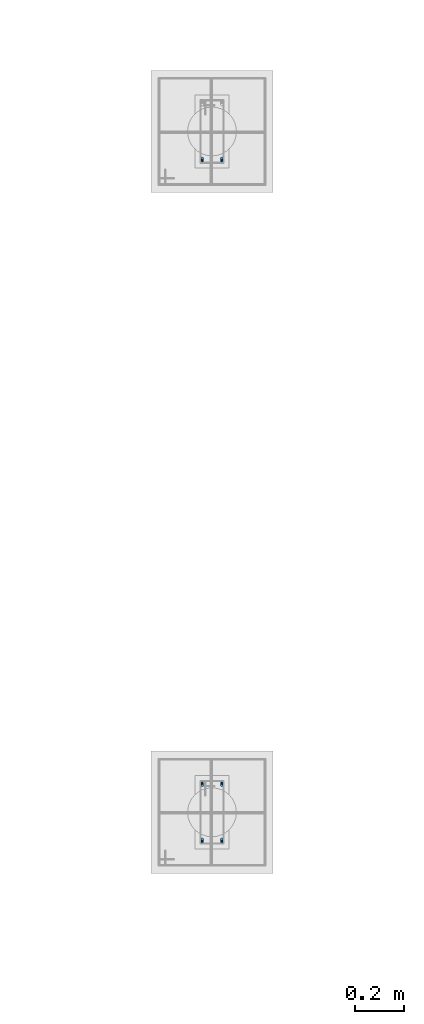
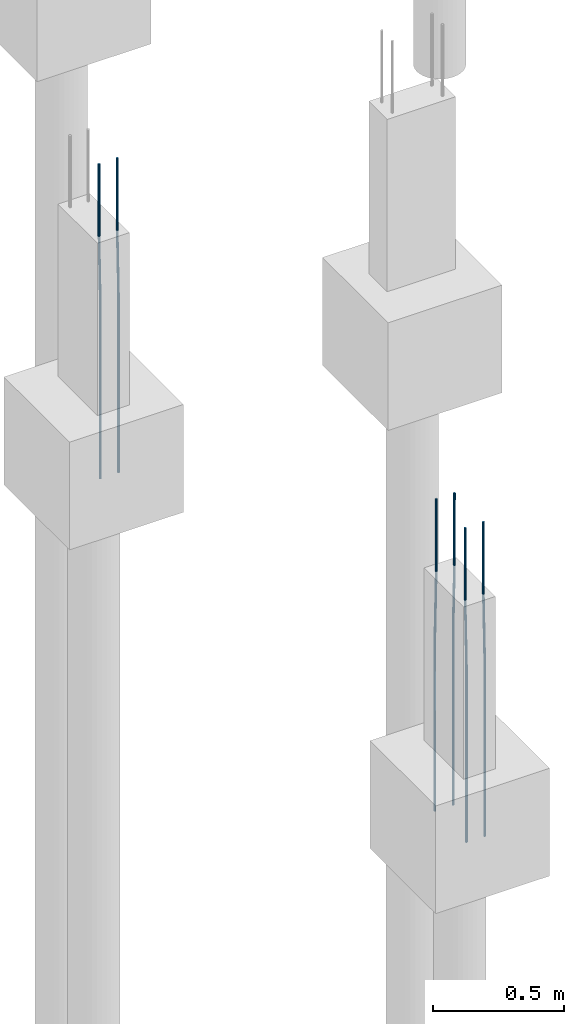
# One storey, part 33 of 119: 6 reinforcing bars.
"""IFC4 building model written with IfcOpenShell, lengths in centimetres."""

from ifc_helpers import new_model, entity, si_unit, derived_unit, frame, origin_with_axes, place, context, project, spatial, element, save


model = new_model("IFC4")

# Units and contexts
model_context = context("Model", 3, precision=1e-05, world=origin_with_axes(), identifier="Body")
ifc_project = project(units=[si_unit("LENGTHUNIT", "METRE", prefix="CENTI"), si_unit("VOLUMEUNIT", "CUBIC_METRE"), si_unit("AREAUNIT", "SQUARE_METRE"), si_unit("POWERUNIT", "WATT"), si_unit("LUMINOUSFLUXUNIT", "LUMEN"), si_unit("ELECTRICCURRENTUNIT", "AMPERE"), si_unit("PRESSUREUNIT", "PASCAL", prefix="KILO"), si_unit("MASSUNIT", "GRAM", prefix="KILO"), si_unit("PLANEANGLEUNIT", "RADIAN"), derived_unit("VOLUMETRICFLOWRATEUNIT", [(si_unit("LENGTHUNIT", "METRE"), 3), (si_unit("TIMEUNIT", "SECOND"), -1)])], contexts=[model_context])

# Site, building, storey
site_placement = place(None, frame((-4000.0, 0.0, 0.0), z_axis=(0.0, 0.0, 1.0), x_axis=(1.0, 0.0, 0.0)))
site = spatial("IfcSite", under=ifc_project, at=site_placement, Name="PADRÃO")
building_placement = place(site_placement, frame((0.0, 0.0, -14.0)))
building = spatial("IfcBuilding", under=site, at=building_placement, Name="CRECHE PRÉ-ESCOLA TIPO 2")
storey_placement = place(building_placement, origin_with_axes())
storey = spatial("IfcBuildingStorey", under=building, at=storey_placement, Name="FUNDAÇÃO", CompositionType="ELEMENT", Elevation=-14.0)

# Reinforcing bars
for number, where, z_axis, x_axis, name in (
    (1, (2519.5, 3178.02, 33.3573001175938), (0.0, 0.0, 1.0), (1.0, 0.0, 0.0), "P53 - Longitudinal"),
    (2, (2527.5, 3178.02, 33.3573001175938), (0.0, 0.0, 1.0), (1.0, 0.0, 0.0), "P53 - Longitudinal"),
    (3, (2527.5, 2899.52, 33.3573001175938), (0.0, 0.0, 1.0), (1.0, 0.0, 0.0), "P60 - Longitudinal"),
):
    element("IfcReinforcingBar", number, at=place(storey_placement, frame(where, z_axis=z_axis, x_axis=x_axis)), inside=storey, Name=name, BarLength=0.0, CrossSectionArea=7.853981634e-05, NominalDiameter=1.0, PredefinedType="MAIN", context=model_context, shape_type="AdvancedSweptSolid", body=[
        entity("IfcSweptDiskSolid", entity("IfcCompositeCurve", [entity("IfcCompositeCurveSegment", "CONTINUOUS", True, entity("IfcPolyline", [entity("IfcCartesianPoint", [0.0, -0.5, -145.357300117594]), entity("IfcCartesianPoint", [0.0, -0.5, -63.3573001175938])])), entity("IfcCompositeCurveSegment", "CONTINUOUS", True, entity("IfcPolyline", [entity("IfcCartesianPoint", [0.0, -0.5, -63.3573001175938]), entity("IfcCartesianPoint", [0.0, 0.5, -33.3573001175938])])), entity("IfcCompositeCurveSegment", "CONTINUOUS", True, entity("IfcPolyline", [entity("IfcCartesianPoint", [0.0, 0.5, -33.3573001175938]), entity("IfcCartesianPoint", [0.0, 0.5, 0.0])]))], False), 0.5),
    ])
reinforcing_bar_1_placement = place(storey_placement, frame((2527.5, 2922.52, 33.3573001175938), z_axis=(0.0, 0.0, 1.0), x_axis=(1.0, 0.0, 0.0)))
element("IfcReinforcingBar", 4, at=reinforcing_bar_1_placement, inside=storey, Name="P60 - Longitudinal", BarLength=0.0, CrossSectionArea=7.853981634e-05, NominalDiameter=1.0, PredefinedType="MAIN", context=model_context, shape_type="AdvancedSweptSolid", body=[
    entity("IfcSweptDiskSolid", entity("IfcCompositeCurve", [entity("IfcCompositeCurveSegment", "CONTINUOUS", True, entity("IfcPolyline", [entity("IfcCartesianPoint", [0.0, 0.5, -145.357300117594]), entity("IfcCartesianPoint", [0.0, 0.5, -63.3573001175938])])), entity("IfcCompositeCurveSegment", "CONTINUOUS", True, entity("IfcPolyline", [entity("IfcCartesianPoint", [0.0, 0.5, -63.3573001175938]), entity("IfcCartesianPoint", [0.0, -0.5, -33.3573001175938])])), entity("IfcCompositeCurveSegment", "CONTINUOUS", True, entity("IfcPolyline", [entity("IfcCartesianPoint", [0.0, -0.5, -33.3573001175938]), entity("IfcCartesianPoint", [0.0, -0.5, 0.0])]))], False), 0.5),
])
reinforcing_bar_2_placement = place(storey_placement, frame((2519.5, 2899.52, 33.3573001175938), z_axis=(0.0, 0.0, 1.0), x_axis=(1.0, 0.0, 0.0)))
element("IfcReinforcingBar", 5, at=reinforcing_bar_2_placement, inside=storey, Name="P60 - Longitudinal", BarLength=0.0, CrossSectionArea=7.853981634e-05, NominalDiameter=1.0, PredefinedType="MAIN", context=model_context, shape_type="AdvancedSweptSolid", body=[
    entity("IfcSweptDiskSolid", entity("IfcCompositeCurve", [entity("IfcCompositeCurveSegment", "CONTINUOUS", True, entity("IfcPolyline", [entity("IfcCartesianPoint", [0.0, -0.5, -145.357300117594]), entity("IfcCartesianPoint", [0.0, -0.5, -63.3573001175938])])), entity("IfcCompositeCurveSegment", "CONTINUOUS", True, entity("IfcPolyline", [entity("IfcCartesianPoint", [0.0, -0.5, -63.3573001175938]), entity("IfcCartesianPoint", [0.0, 0.5, -33.3573001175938])])), entity("IfcCompositeCurveSegment", "CONTINUOUS", True, entity("IfcPolyline", [entity("IfcCartesianPoint", [0.0, 0.5, -33.3573001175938]), entity("IfcCartesianPoint", [0.0, 0.5, 0.0])]))], False), 0.5),
])
reinforcing_bar_3_placement = place(storey_placement, frame((2519.5, 2922.52, 33.3573001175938), z_axis=(0.0, 0.0, 1.0), x_axis=(1.0, 0.0, 0.0)))
element("IfcReinforcingBar", 6, at=reinforcing_bar_3_placement, inside=storey, Name="P60 - Longitudinal", BarLength=0.0, CrossSectionArea=7.853981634e-05, NominalDiameter=1.0, PredefinedType="MAIN", context=model_context, shape_type="AdvancedSweptSolid", body=[
    entity("IfcSweptDiskSolid", entity("IfcCompositeCurve", [entity("IfcCompositeCurveSegment", "CONTINUOUS", True, entity("IfcPolyline", [entity("IfcCartesianPoint", [0.0, 0.5, -145.357300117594]), entity("IfcCartesianPoint", [0.0, 0.5, -63.3573001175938])])), entity("IfcCompositeCurveSegment", "CONTINUOUS", True, entity("IfcPolyline", [entity("IfcCartesianPoint", [0.0, 0.5, -63.3573001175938]), entity("IfcCartesianPoint", [0.0, -0.5, -33.3573001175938])])), entity("IfcCompositeCurveSegment", "CONTINUOUS", True, entity("IfcPolyline", [entity("IfcCartesianPoint", [0.0, -0.5, -33.3573001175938]), entity("IfcCartesianPoint", [0.0, -0.5, 0.0])]))], False), 0.5),
])

save(model, "model.ifc")
